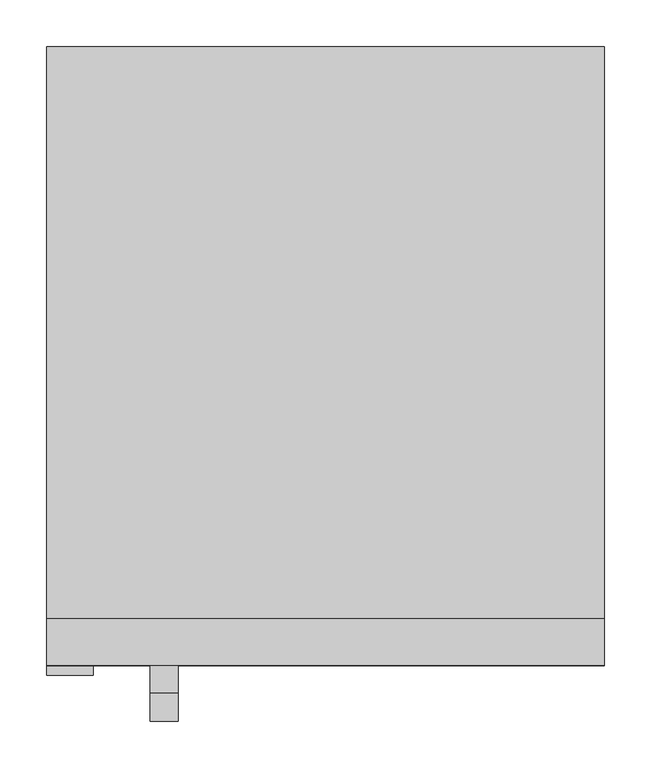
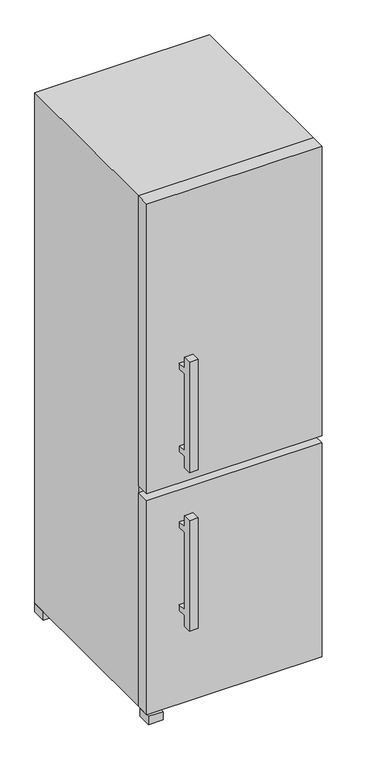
"""IFC4 building model written with IfcOpenShell, lengths in millimetres: proxy geometry, CNef 4315, CNPef 4516 : CNef 4315."""

from ifc_helpers import new_model, si_unit, frame, origin, place, context, project, spatial, polyline, outline, extrude, source, transform, mapped, element, save


def specialty_equipment_39511ddc(model_context):
    return source(origin(), model_context, "Body", "SweptSolid", [
        extrude(outline(polyline([(-724.8345306, -223.1867483), (-694.8345306, -223.1867483), (-694.8345306, -243.1867483), (-724.8345306, -243.1867483), (-724.8345306, -523.1867483), (-694.8345306, -523.1867483), (-694.8345306, -543.1867483), (-724.8345306, -543.1867483), (-724.8345306, -583.1867483), (-754.8345306, -583.1867483), (-754.8345306, -183.1867483), (-724.8345306, -183.1867483), (-724.8345306, -223.1867483)])), frame((-888.4104602, 0.0, 0.0), z_axis=(1.0, 0.0, 0.0), x_axis=(0.0, 1.0, 0.0)), (0.0, 0.0, 1.0), 30.0),
        extrude(outline(polyline([(-400.0, -694.8345306), (-1000.0, -694.8345306), (-1000.0, -644.8345306), (-400.0, -644.8345306), (-400.0, -694.8345306)])), frame((0.0, 0.0, -883.1867483), z_axis=(0.0, 0.0, 1.0), x_axis=(1.0, 0.0, 0.0)), (0.0, 0.0, 1.0), 775.0),
        extrude(outline(polyline([(-400.0, -504.5825981), (-400.0, -554.5825981), (-450.0, -554.5825981), (-450.0, -504.5825981), (-400.0, -504.5825981)])), frame((0.0, 0.0, -913.1867483), z_axis=(0.0, 0.0, 1.0), x_axis=(1.0, 0.0, 0.0)), (0.0, 0.0, 1.0), 30.0),
        extrude(outline(polyline([(-400.0, -29.8345306), (-400.0, -79.8345306), (-450.0, -79.8345306), (-450.0, -29.8345306), (-400.0, -29.8345306)])), frame((0.0, 0.0, -913.1867483), z_axis=(0.0, 0.0, 1.0), x_axis=(1.0, 0.0, 0.0)), (0.0, 0.0, 1.0), 30.0),
        extrude(outline(polyline([(-950.0, -29.8345306), (-950.0, -79.8345306), (-1000.0, -79.8345306), (-1000.0, -29.8345306), (-950.0, -29.8345306)])), frame((0.0, 0.0, -913.1867483), z_axis=(0.0, 0.0, 1.0), x_axis=(1.0, 0.0, 0.0)), (0.0, 0.0, 1.0), 30.0),
        extrude(outline(polyline([(-950.0, -655.0864632), (-950.0, -705.0864632), (-1000.0, -705.0864632), (-1000.0, -655.0864632), (-950.0, -655.0864632)])), frame((0.0, 0.0, -913.1867483), z_axis=(0.0, 0.0, 1.0), x_axis=(1.0, 0.0, 0.0)), (0.0, 0.0, 1.0), 30.0),
        extrude(outline(polyline([(-724.8345306, 351.8132517), (-694.8345306, 351.8132517), (-694.8345306, 331.8132517), (-724.8345306, 331.8132517), (-724.8345306, 51.8132517), (-694.8345306, 51.8132517), (-694.8345306, 31.8132517), (-724.8345306, 31.8132517), (-724.8345306, -8.1867483), (-754.8345306, -8.1867483), (-754.8345306, 391.8132517), (-724.8345306, 391.8132517), (-724.8345306, 351.8132517)])), frame((-888.4104602, 0.0, 0.0), z_axis=(1.0, 0.0, 0.0), x_axis=(0.0, 1.0, 0.0)), (0.0, 0.0, 1.0), 30.0),
        extrude(outline(polyline([(-400.0, -694.8345306), (-1000.0, -694.8345306), (-1000.0, -644.8345306), (-400.0, -644.8345306), (-400.0, -694.8345306)])), frame((0.0, 0.0, -83.1867483), z_axis=(0.0, 0.0, 1.0), x_axis=(1.0, 0.0, 0.0)), (0.0, 0.0, 1.0), 1050.0),
        extrude(outline(polyline([(-400.0, -644.8345306), (-1000.0, -644.8345306), (-1000.0, -29.8345306), (-400.0, -29.8345306), (-400.0, -644.8345306)])), frame((0.0, 0.0, -883.1867483), z_axis=(0.0, 0.0, 1.0), x_axis=(1.0, 0.0, 0.0)), (0.0, 0.0, 1.0), 1850.0),
    ])


if __name__ == "__main__":
    model = new_model("IFC4")
    model_context = context("Model", 3, world=origin())
    ifc_project = project(units=[si_unit("LENGTHUNIT", "METRE", prefix="MILLI")], contexts=[model_context])
    site = spatial("IfcSite", under=ifc_project)
    building = spatial("IfcBuilding", under=site)
    placement = place(None, origin())
    specialty_equipment_shape = specialty_equipment_39511ddc(model_context)
    element("IfcBuildingElementProxy", 1, Name="CNef 4315, CNPef 4516 : CNef 4315", ObjectType="CNef 4315, CNPef 4516 : CNef 4315", at=placement, inside=building, context=model_context, shape_type="MappedRepresentation", body=[
        mapped(specialty_equipment_shape, transform((0.0, 0.0, 0.0), x_axis=(1.0, 0.0, 0.0), y_axis=(0.0, 1.0, 0.0), z_axis=(0.0, 0.0, 1.0))),
    ])
    save(model, "model.ifc")
